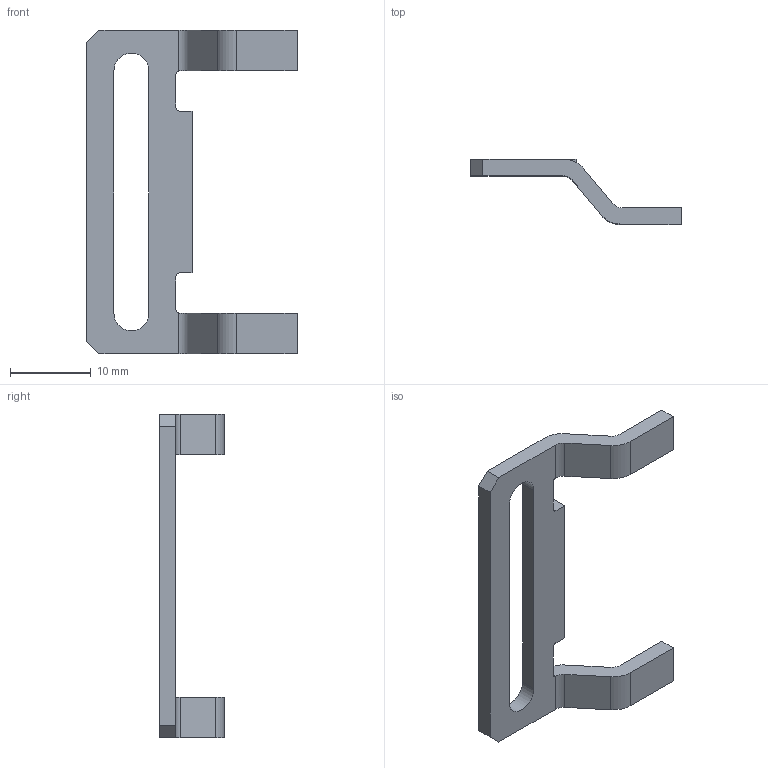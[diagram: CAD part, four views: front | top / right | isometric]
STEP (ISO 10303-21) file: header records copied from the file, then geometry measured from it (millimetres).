
FILE_DESCRIPTION((''),'2;1');
FILE_NAME('C:\TurckZip\MB1-Q25.stp','2009-04-17T15:06:59',('IKOROL'),(''),'Autodesk Inventor 2009','Autodesk Inventor 2009','');
FILE_SCHEMA(('CONFIG_CONTROL_DESIGN'));
Length unit declared in the file: millimetre
Products named in the file (1): Part38
Bounding box: 26 x 8 x 40 mm (x, y, z)
Volume: 1021 mm3; surface area: 1514.3 mm2
Topology: 1 solids, 1 shells, 40 faces, 114 edges, 76 vertices
Faces by surface type: plane 26, cylinder 14
Entity records: 1382 total; most frequent: CARTESIAN_POINT 240, ORIENTED_EDGE 228, DIRECTION 222, EDGE_CURVE 114, VECTOR 84, LINE 84, VERTEX_POINT 76, AXIS2_PLACEMENT_3D 69
